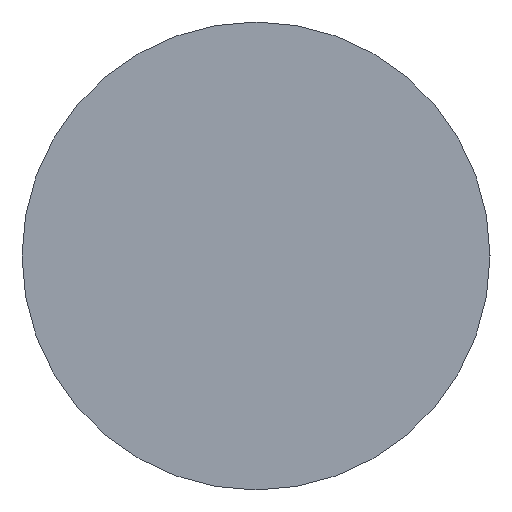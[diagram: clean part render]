
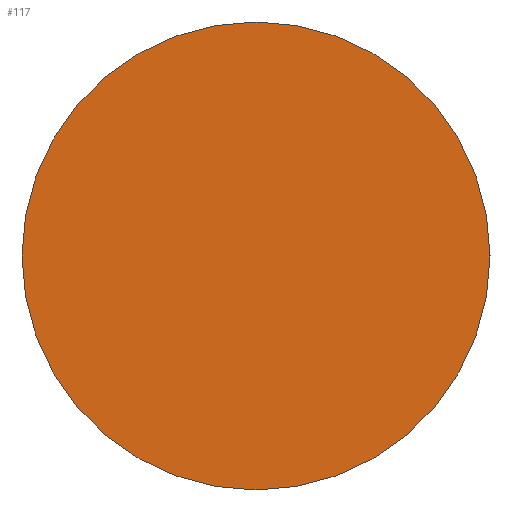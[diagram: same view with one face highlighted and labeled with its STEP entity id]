
A CAD part, left-side view. The second image highlights one B-rep face of the part: STEP entity #117.
In plain terms, the highlighted planar face has unit normal (-1, 0, 0).
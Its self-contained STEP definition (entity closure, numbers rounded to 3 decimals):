
#5 = ORIENTED_EDGE ( 'NONE', *, *, #40, .F. ) ;
#12 = CARTESIAN_POINT ( 'NONE',  ( 0., 0., 0. ) ) ;
#18 = DIRECTION ( 'NONE',  ( 0., 1., 0. ) ) ;
#27 = AXIS2_PLACEMENT_3D ( 'NONE', #37, #124, #18 ) ;
#31 = DIRECTION ( 'NONE',  ( 0., 1., 0. ) ) ;
#37 = CARTESIAN_POINT ( 'NONE',  ( 0., 0., 0. ) ) ;
#40 = EDGE_CURVE ( 'NONE', #187, #86, #66, .T. ) ;
#50 = DIRECTION ( 'NONE',  ( 0., -1., 0. ) ) ;
#56 = DIRECTION ( 'NONE',  ( 1., 0., 0. ) ) ;
#66 = CIRCLE ( 'NONE', #27, 6. ) ;
#69 = FACE_OUTER_BOUND ( 'NONE', #221, .T. ) ;
#74 = EDGE_CURVE ( 'NONE', #86, #187, #82, .T. ) ;
#82 = CIRCLE ( 'NONE', #265, 6. ) ;
#86 = VERTEX_POINT ( 'NONE', #171 ) ;
#117 = ADVANCED_FACE ( 'NONE', ( #69 ), #218, .T. ) ;
#124 = DIRECTION ( 'NONE',  ( 1., 0., 0. ) ) ;
#133 = CARTESIAN_POINT ( 'NONE',  ( 0., -6., 0. ) ) ;
#148 = AXIS2_PLACEMENT_3D ( 'NONE', #185, #209, #50 ) ;
#171 = CARTESIAN_POINT ( 'NONE',  ( 0., 6., 0. ) ) ;
#185 = CARTESIAN_POINT ( 'NONE',  ( 0., 0., 0. ) ) ;
#187 = VERTEX_POINT ( 'NONE', #133 ) ;
#205 = ORIENTED_EDGE ( 'NONE', *, *, #74, .F. ) ;
#209 = DIRECTION ( 'NONE',  ( -1., 0., 0. ) ) ;
#218 = PLANE ( 'NONE',  #148 ) ;
#221 = EDGE_LOOP ( 'NONE', ( #205, #5 ) ) ;
#265 = AXIS2_PLACEMENT_3D ( 'NONE', #12, #56, #31 ) ;
